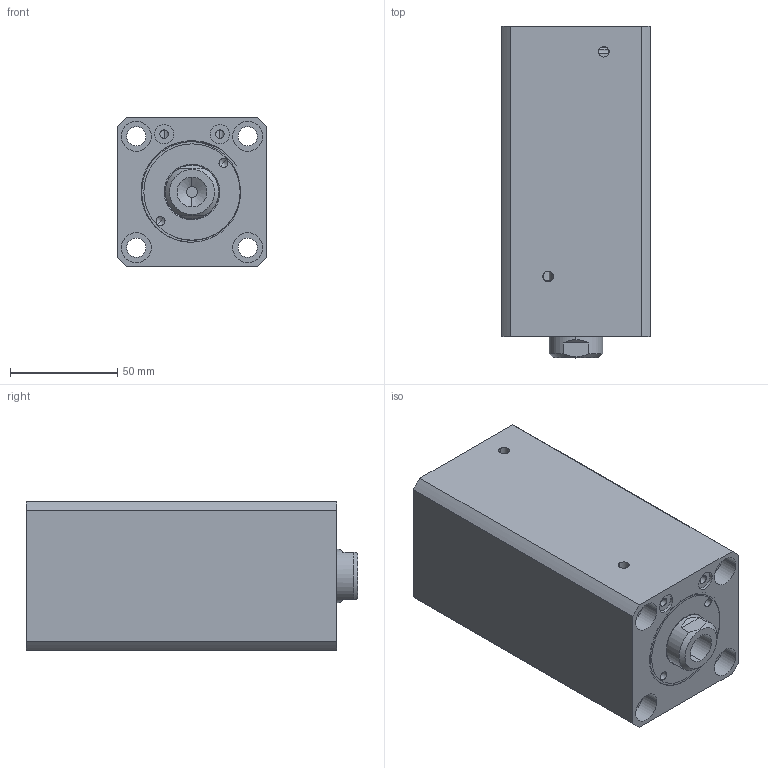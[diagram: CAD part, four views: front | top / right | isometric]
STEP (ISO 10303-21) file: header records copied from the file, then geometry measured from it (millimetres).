
FILE_DESCRIPTION (( 'STEP AP214' ), '1' );
FILE_NAME ('chtb-sdma40x90n_asm.STEP', '2018-06-06T07:06:40', ( 'Windows' ), ( 'Microsoft' ), 'SwSTEP 2.0', 'SolidWorks 2015', '' );
FILE_SCHEMA (( 'AUTOMOTIVE_DESIGN' ));
Length unit declared in the file: millimetre
Products named in the file (4): CHTB-SD40QG; CHTB-SDMA40X90NBT; CHTB-SD40X90NHSG; chtb-sdma40x90n_asm
Assembly tree (3 placements, depth 2):
  chtb-sdma40x90n_asm
    CHTB-SD40X90NHSG
    CHTB-SDMA40X90NBT
    CHTB-SD40QG
Bounding box: 70 x 155 x 70 mm (x, y, z)
Volume: 584298.8 mm3; surface area: 114361.7 mm2
Topology: 3 solids, 3 shells, 157 faces, 413 edges, 274 vertices
Faces by surface type: cylinder 84, plane 36, torus 14, bspline 14, cone 9
Entity records: 10139 total; most frequent: CARTESIAN_POINT 6157, ORIENTED_EDGE 814, DIRECTION 768, EDGE_CURVE 407, AXIS2_PLACEMENT_3D 326, VERTEX_POINT 274, EDGE_LOOP 193, CIRCLE 177
